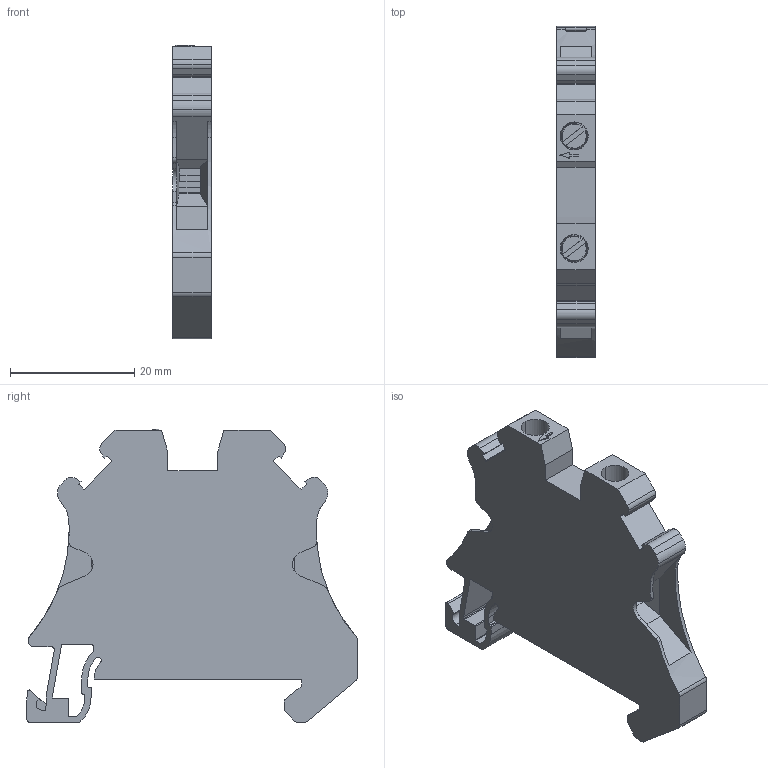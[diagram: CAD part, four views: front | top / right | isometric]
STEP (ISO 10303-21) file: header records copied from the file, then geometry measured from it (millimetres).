
FILE_DESCRIPTION (( 'STEP AP214' ), '1' );
FILE_NAME ('TUR-4R.STEP', '2025-03-07T12:48:57', ( '' ), ( '' ), 'SwSTEP 2.0', 'SolidWorks 2022', '' );
FILE_SCHEMA (( 'AUTOMOTIVE_DESIGN' ));
Length unit declared in the file: millimetre
Products named in the file (1): TUR-4R
Bounding box: 6.2 x 53.3 x 47.24 mm (x, y, z)
Volume: 7735.9 mm3; surface area: 7074.3 mm2
Topology: 3 solids, 3 shells, 340 faces, 936 edges, 613 vertices
Faces by surface type: plane 198, cylinder 116, bspline 12, torus 8, cone 6
Full cylindrical faces by diameter (mm): 2.3 x2, 3 x2
Entity records: 16153 total; most frequent: CARTESIAN_POINT 3743, ORIENTED_EDGE 1844, DIRECTION 1756, EDGE_CURVE 922, LINE 628, VECTOR 628, VERTEX_POINT 609, AXIS2_PLACEMENT_3D 564
